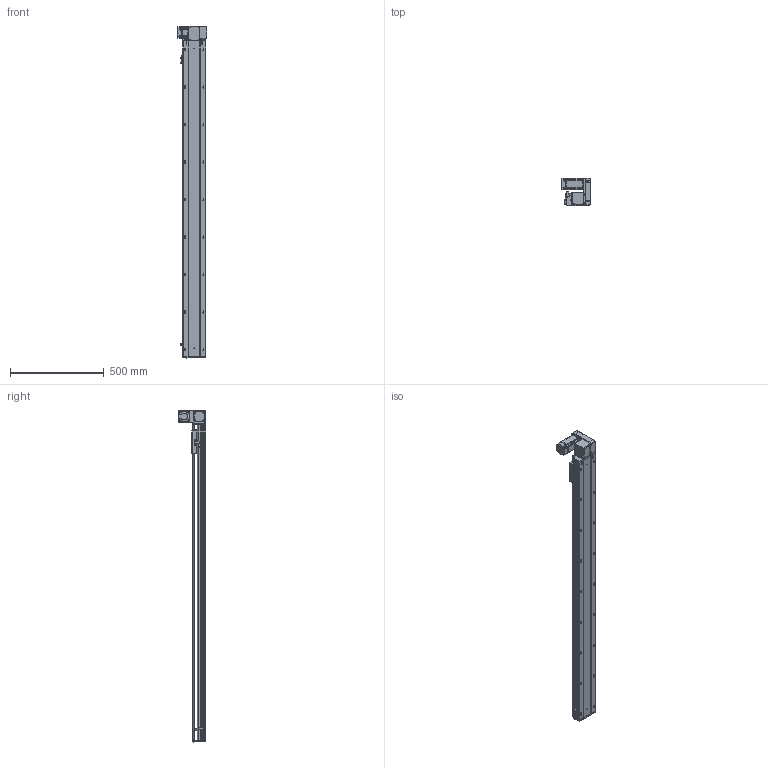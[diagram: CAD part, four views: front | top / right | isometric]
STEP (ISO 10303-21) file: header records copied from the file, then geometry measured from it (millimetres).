
FILE_DESCRIPTION (( 'STEP AP203' ), '1' );
FILE_NAME ('RY120-T-300-UR.SLDASM_1450.step', '2021-03-01T05:57:24', ( '盈信电脑' ), ( '东莞市道滘镇水果街19号' ), 'SwSTEP 2.0', 'SolidWorks 2012', '' );
FILE_SCHEMA (( 'CONFIG_CONTROL_DESIGN' ));
Length unit declared in the file: millimetre
Products named in the file (17): RY120-T-300-UR.SLDASM_1450; RY120-T主同步轮轴承压盖; RY120-T蹟翐M4; 15; RY120-T萇儂欶; RY120-T萇儂假蚾啣; 滅袉蝶18-10; RY120-T翋肮祭謫裔啣; RY120-T翋肮祭盓傅釱; RY120-T肮祭湍揤踡輸1; RY120外置感应片(140共用）; RY120-T肮祭湍揤踡輸2; 覜茼ん672; RY120-T-300-UR倰第奻裔啣_1450; RY120肮祭湍臏賑輸; RY120綴裔啣; RY120-T-300-UR倰第菁釱_1450
Assembly tree (22 placements, depth 2):
  RY120-T-300-UR.SLDASM_1450
    RY120-T-300-UR倰第菁釱_1450
    RY120-T-300-UR倰第奻裔啣_1450
    RY120肮祭湍臏賑輸
    RY120綴裔啣
    覜茼ん672  x3
    RY120外置感应片(140共用）
    RY120-T肮祭湍揤踡輸1
    RY120-T肮祭湍揤踡輸2
    RY120-T翋肮祭盓傅釱
    RY120-T萇儂假蚾啣
    滅袉蝶18-10  x2
    RY120-T翋肮祭謫裔啣
    15
    RY120-T蹟翐M4  x4
    RY120-T萇儂欶
    RY120-T主同步轮轴承压盖
Bounding box: 155.5 x 146 x 1771 mm (x, y, z)
Volume: 4602123.7 mm3; surface area: 1741066.4 mm2
Topology: 23 solids, 23 shells, 2964 faces, 8096 edges, 5174 vertices
Faces by surface type: plane 1436, cylinder 1154, cone 285, bspline 89
Entity records: 94813 total; most frequent: CARTESIAN_POINT 24436, ORIENTED_EDGE 14552, DIRECTION 13750, EDGE_CURVE 7276, VERTEX_POINT 4761, AXIS2_PLACEMENT_3D 4639, LINE 4472, VECTOR 4472
